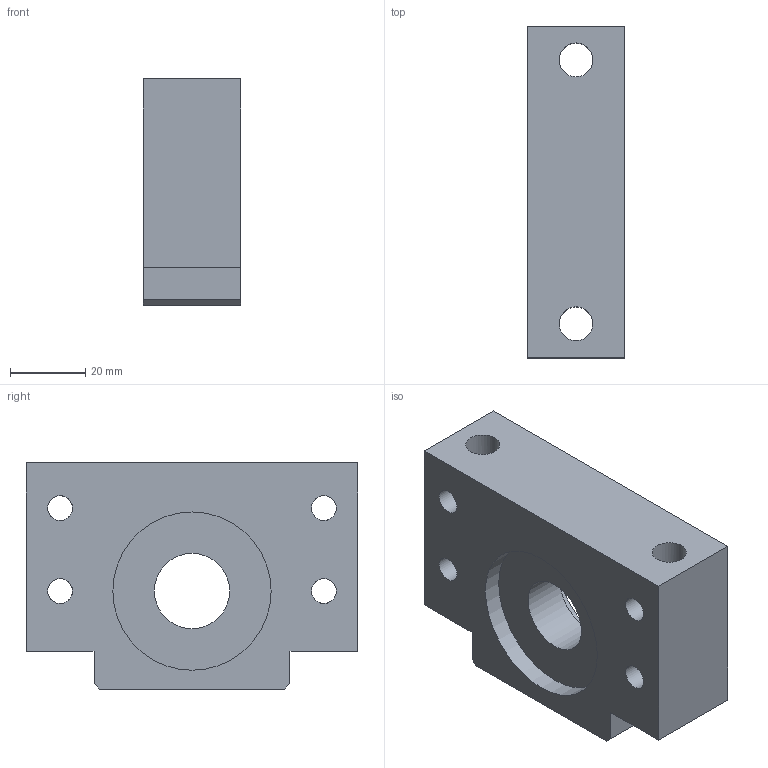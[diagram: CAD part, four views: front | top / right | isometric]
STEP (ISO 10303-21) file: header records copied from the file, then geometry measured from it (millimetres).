
FILE_DESCRIPTION(/* description */ (''),/* implementation_level */ '2;1');
FILE_NAME(/* name */ 'BF20.stp',/* time_stamp */ '2018-11-29T08:34:58+08:00',/* author */ (''),/* organization */ (''),/* preprocessor_version */ 'ST-DEVELOPER v14',/* originating_system */ 'SIEMENS PLM Software NX 8.0',/* authorisation */ '');
FILE_SCHEMA (('AUTOMOTIVE_DESIGN { 1 0 10303 214 3 1 1 1 }'));
Length unit declared in the file: millimetre
Products named in the file (3): BF20-SUB; 7004; BF20
Assembly tree (2 placements, depth 2):
  BF20
    7004
    BF20-SUB
Bounding box: 26 x 88 x 60 mm (x, y, z)
Volume: 94388.4 mm3; surface area: 26421.5 mm2
Topology: 2 solids, 2 shells, 31 faces, 92 edges, 63 vertices
Faces by surface type: plane 16, cylinder 15
Full cylindrical faces by diameter (mm): 6.6 x8, 9 x2, 14 x2, 20 x1, 42 x2
Entity records: 1072 total; most frequent: CARTESIAN_POINT 280, DIRECTION 142, ORIENTED_EDGE 120, EDGE_LOOP 72, FACE_BOUND 65, EDGE_CURVE 60, AXIS2_PLACEMENT_3D 56, VERTEX_POINT 50
